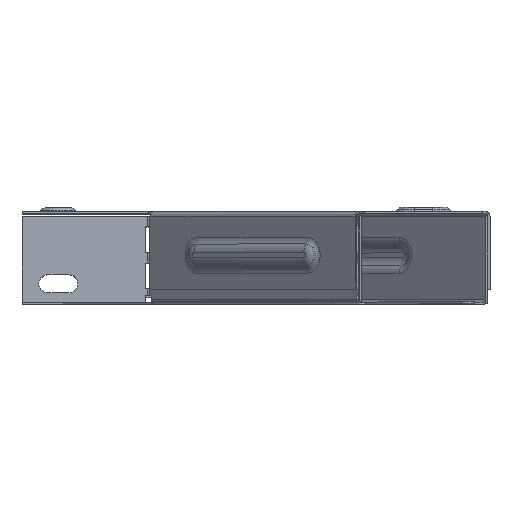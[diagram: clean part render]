
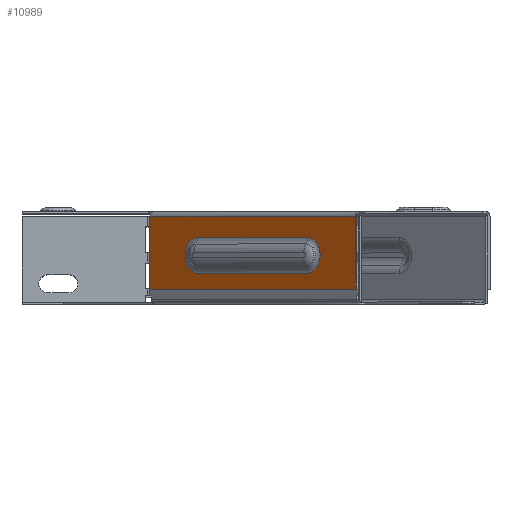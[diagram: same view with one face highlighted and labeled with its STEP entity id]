
A CAD part, top view. The second image highlights one B-rep face of the part: STEP entity #10989.
In plain terms, the highlighted planar face has unit normal (-0.707, 0, 0.707).
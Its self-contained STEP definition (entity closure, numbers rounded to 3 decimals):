
#694 = VERTEX_POINT ( 'NONE', #2258 ) ;
#1033 = EDGE_CURVE ( 'NONE', #694, #1656, #1682, .T. ) ;
#1053 = EDGE_CURVE ( 'NONE', #3371, #1656, #3697, .T. ) ;
#1656 = VERTEX_POINT ( 'NONE', #4866 ) ;
#1682 = LINE ( 'NONE', #4262, #2069 ) ;
#1710 = VECTOR ( 'NONE', #2135, 1000. ) ;
#1783 = CIRCLE ( 'NONE', #4247, 6.917 ) ;
#1969 = VECTOR ( 'NONE', #10893, 1000. ) ;
#2069 = VECTOR ( 'NONE', #12393, 1000. ) ;
#2116 = VERTEX_POINT ( 'NONE', #13772 ) ;
#2135 = DIRECTION ( 'NONE',  ( 0., -1., 0. ) ) ;
#2209 = VECTOR ( 'NONE', #15054, 1000. ) ;
#2258 = CARTESIAN_POINT ( 'NONE',  ( 38.727, 5., 40.569 ) ) ;
#2295 = LINE ( 'NONE', #10503, #1710 ) ;
#2367 = CARTESIAN_POINT ( 'NONE',  ( -22.134, 11.183, -20.292 ) ) ;
#2548 = CARTESIAN_POINT ( 'NONE',  ( -40.569, 33.2, -38.727 ) ) ;
#2734 = EDGE_CURVE ( 'NONE', #2116, #694, #7890, .T. ) ;
#3187 = ORIENTED_EDGE ( 'NONE', *, *, #5843, .T. ) ;
#3371 = VERTEX_POINT ( 'NONE', #2548 ) ;
#3697 = LINE ( 'NONE', #7819, #6810 ) ;
#4247 = AXIS2_PLACEMENT_3D ( 'NONE', #4775, #12973, #14886 ) ;
#4262 = CARTESIAN_POINT ( 'NONE',  ( 38.727, 34.2, 40.569 ) ) ;
#4292 = ORIENTED_EDGE ( 'NONE', *, *, #2734, .T. ) ;
#4532 = CARTESIAN_POINT ( 'NONE',  ( 39.434, 5., 41.276 ) ) ;
#4652 = EDGE_LOOP ( 'NONE', ( #6883, #12536, #10040, #12033 ) ) ;
#4665 = EDGE_CURVE ( 'NONE', #5295, #10687, #7817, .T. ) ;
#4775 = CARTESIAN_POINT ( 'NONE',  ( 20.292, 18.1, 22.134 ) ) ;
#4866 = CARTESIAN_POINT ( 'NONE',  ( 38.727, 33.2, 40.569 ) ) ;
#5021 = VERTEX_POINT ( 'NONE', #7647 ) ;
#5295 = VERTEX_POINT ( 'NONE', #2367 ) ;
#5384 = DIRECTION ( 'NONE',  ( 0.707, 0., 0.707 ) ) ;
#5843 = EDGE_CURVE ( 'NONE', #3371, #2116, #2295, .T. ) ;
#6055 = DIRECTION ( 'NONE',  ( -0.5, -0.707, -0.5 ) ) ;
#6809 = VECTOR ( 'NONE', #5384, 1000. ) ;
#6810 = VECTOR ( 'NONE', #10007, 1000. ) ;
#6883 = ORIENTED_EDGE ( 'NONE', *, *, #11687, .T. ) ;
#7430 = CARTESIAN_POINT ( 'NONE',  ( 20.292, 11.183, 22.134 ) ) ;
#7647 = CARTESIAN_POINT ( 'NONE',  ( 20.292, 11.183, 22.134 ) ) ;
#7677 = AXIS2_PLACEMENT_3D ( 'NONE', #8477, #9853, #9648 ) ;
#7817 = CIRCLE ( 'NONE', #8777, 6.917 ) ;
#7819 = CARTESIAN_POINT ( 'NONE',  ( -0.921, 33.2, 0.921 ) ) ;
#7890 = LINE ( 'NONE', #4532, #2209 ) ;
#8198 = LINE ( 'NONE', #7430, #1969 ) ;
#8477 = CARTESIAN_POINT ( 'NONE',  ( -0.921, 34.2, 0.921 ) ) ;
#8478 = DIRECTION ( 'NONE',  ( 0.707, 0., -0.707 ) ) ;
#8501 = FACE_BOUND ( 'NONE', #4652, .T. ) ;
#8777 = AXIS2_PLACEMENT_3D ( 'NONE', #13063, #8478, #6055 ) ;
#8944 = VERTEX_POINT ( 'NONE', #14316 ) ;
#9078 = EDGE_LOOP ( 'NONE', ( #14343, #9290, #3187, #4292 ) ) ;
#9290 = ORIENTED_EDGE ( 'NONE', *, *, #1053, .F. ) ;
#9437 = EDGE_CURVE ( 'NONE', #5021, #5295, #8198, .T. ) ;
#9648 = DIRECTION ( 'NONE',  ( 0.707, 0., 0.707 ) ) ;
#9853 = DIRECTION ( 'NONE',  ( 0.707, 0., -0.707 ) ) ;
#9961 = FACE_OUTER_BOUND ( 'NONE', #9078, .T. ) ;
#10007 = DIRECTION ( 'NONE',  ( 0.707, 0., 0.707 ) ) ;
#10040 = ORIENTED_EDGE ( 'NONE', *, *, #9437, .T. ) ;
#10503 = CARTESIAN_POINT ( 'NONE',  ( -40.569, 5., -38.727 ) ) ;
#10687 = VERTEX_POINT ( 'NONE', #13799 ) ;
#10893 = DIRECTION ( 'NONE',  ( -0.707, 0., -0.707 ) ) ;
#10989 = ADVANCED_FACE ( 'NONE', ( #8501, #9961 ), #11980, .F. ) ;
#11222 = CARTESIAN_POINT ( 'NONE',  ( 20.292, 25.017, 22.134 ) ) ;
#11687 = EDGE_CURVE ( 'NONE', #10687, #8944, #14480, .T. ) ;
#11980 = PLANE ( 'NONE',  #7677 ) ;
#12033 = ORIENTED_EDGE ( 'NONE', *, *, #4665, .T. ) ;
#12393 = DIRECTION ( 'NONE',  ( 0., 1., 0. ) ) ;
#12536 = ORIENTED_EDGE ( 'NONE', *, *, #14913, .T. ) ;
#12973 = DIRECTION ( 'NONE',  ( 0.707, 0., -0.707 ) ) ;
#13063 = CARTESIAN_POINT ( 'NONE',  ( -22.134, 18.1, -20.292 ) ) ;
#13772 = CARTESIAN_POINT ( 'NONE',  ( -40.569, 5., -38.727 ) ) ;
#13799 = CARTESIAN_POINT ( 'NONE',  ( -22.134, 25.017, -20.292 ) ) ;
#14316 = CARTESIAN_POINT ( 'NONE',  ( 20.292, 25.017, 22.134 ) ) ;
#14343 = ORIENTED_EDGE ( 'NONE', *, *, #1033, .T. ) ;
#14480 = LINE ( 'NONE', #11222, #6809 ) ;
#14886 = DIRECTION ( 'NONE',  ( -0.5, -0.707, -0.5 ) ) ;
#14913 = EDGE_CURVE ( 'NONE', #8944, #5021, #1783, .T. ) ;
#15054 = DIRECTION ( 'NONE',  ( 0.707, 0., 0.707 ) ) ;
